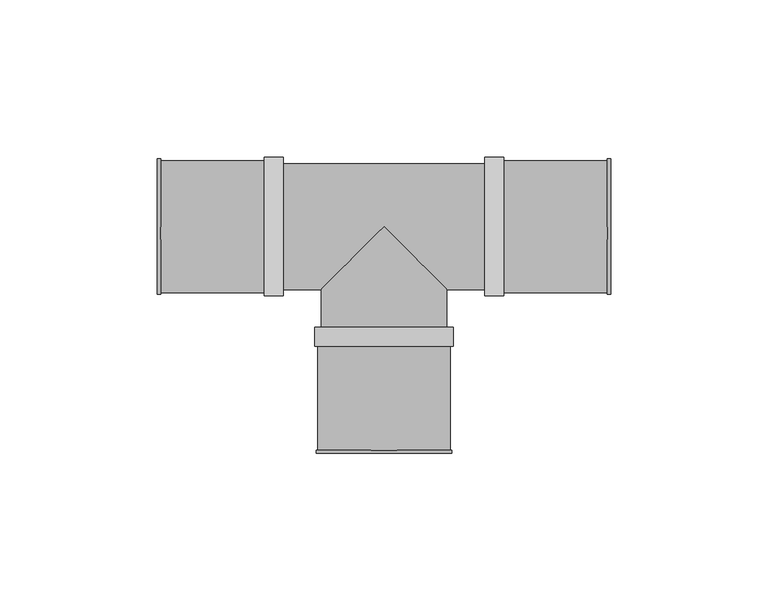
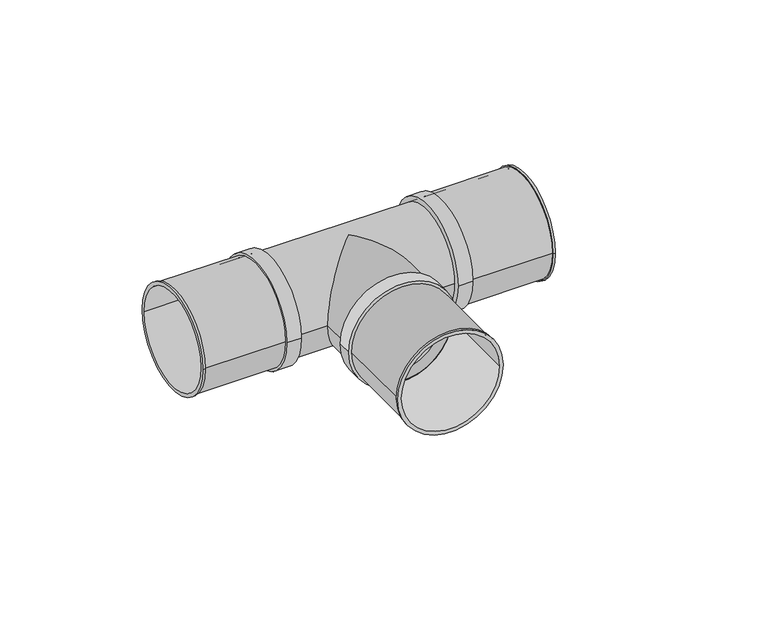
"""IFC4 building model written with IfcOpenShell, lengths in millimetres: pipe fitting geometry, SuperPipe_Tee_SPressPlus : SuperPipe_Tee_SPressPlus."""

from ifc_helpers import new_model, si_unit, point, frame, origin, origin_2d, place, context, project, spatial, polyline, circle_curve, ellipse_curve, trimmed, segment, composite_curve, outline, extrude, source, transform, mapped, element, save
from ifc_brep_helpers import plane_surface, cylinder_surface, revolved_surface, advanced_brep


def pipe_fitting_361ffb06(model_context):
    return source(origin(), model_context, "Body", "SolidModel", [
        advanced_brep(
        [(-72.0, -21.5, 0.0), (-72.0, 21.5, 0.0), (-72.0, -20.0, 0.0), (-72.0, 20.0, 0.0), (-38.0, -21.0, 0.0), (-38.0, 21.0, 0.0), (-38.0, -20.0, 0.0), (-38.0, 20.0, 0.0), (-71.0, -20.0, 0.0), (-71.0, 20.0, 0.0), (-71.0, 21.0, 0.0), (-71.0, -21.0, 0.0), (-71.0, -21.5, 0.0), (-71.0, 21.5, 0.0)],
        [
            (0, 1, circle_curve(frame((-72.0, 0.0, 0.0), z_axis=(-1.0, 0.0, 0.0), x_axis=(0.0, 1.0, 0.0)), 21.5)),
            (1, 0, circle_curve(frame((-72.0, 0.0, 0.0), z_axis=(-1.0, 0.0, 0.0), x_axis=(0.0, 1.0, 0.0)), 21.5)),
            (2, 3, circle_curve(frame((-72.0, 0.0, 0.0), z_axis=(1.0, 0.0, 0.0), x_axis=(0.0, 1.0, 0.0)), 20.0)),
            (3, 2, circle_curve(frame((-72.0, 0.0, 0.0), z_axis=(1.0, 0.0, 0.0), x_axis=(0.0, 1.0, 0.0)), 20.0)),
            (4, 5, circle_curve(frame((-38.0, 0.0, 0.0), z_axis=(1.0, 0.0, 0.0), x_axis=(0.0, 1.0, 0.0)), 21.0)),
            (5, 4, circle_curve(frame((-38.0, 0.0, 0.0), z_axis=(1.0, 0.0, 0.0), x_axis=(0.0, 1.0, 0.0)), 21.0)),
            (6, 7, circle_curve(frame((-38.0, 0.0, 0.0), z_axis=(-1.0, 0.0, 0.0), x_axis=(0.0, 1.0, 0.0)), 20.0)),
            (7, 6, circle_curve(frame((-38.0, 0.0, 0.0), z_axis=(-1.0, 0.0, 0.0), x_axis=(0.0, 1.0, 0.0)), 20.0)),
            (2, 8),
            (8, 6),
            (7, 9),
            (9, 3),
            (5, 10),
            (10, 11, circle_curve(frame((-71.0, 0.0, 0.0), z_axis=(1.0, 0.0, 0.0), x_axis=(0.0, 1.0, 0.0)), 21.0)),
            (11, 4),
            (11, 10, circle_curve(frame((-71.0, 0.0, 0.0), z_axis=(1.0, 0.0, 0.0), x_axis=(0.0, 1.0, 0.0)), 21.0)),
            (12, 13, circle_curve(frame((-71.0, 0.0, 0.0), z_axis=(1.0, 0.0, 0.0), x_axis=(0.0, 1.0, 0.0)), 21.5)),
            (13, 12, circle_curve(frame((-71.0, 0.0, 0.0), z_axis=(1.0, 0.0, 0.0), x_axis=(0.0, 1.0, 0.0)), 21.5)),
            (0, 12),
            (13, 1),
        ],
        [
            plane_surface(frame((-72.0, 0.0, 0.0), z_axis=(-1.0, 0.0, 0.0), x_axis=(0.0, 0.0, 1.0))),
            plane_surface(frame((-38.0, 0.0, 0.0), z_axis=(1.0, 0.0, 0.0), x_axis=(0.0, 0.0, 1.0))),
            revolved_surface(polyline([(-38.0, 20.0, 0.0), (-72.0, 20.0, 0.0)]), (-72.0, 0.0, 0.0), (1.0, 0.0, 0.0)),
            cylinder_surface(frame((-72.0, 0.0, 0.0), z_axis=(-1.0, 0.0, 0.0), x_axis=(0.0, 1.0, 0.0)), 21.0),
            plane_surface(frame((-71.0, 0.0, 0.0), z_axis=(1.0, 0.0, 0.0), x_axis=(0.0, 0.0, 1.0))),
            cylinder_surface(frame((-72.0, 0.0, 0.0), z_axis=(-1.0, 0.0, 0.0), x_axis=(0.0, 1.0, 0.0)), 21.5),
        ],
        [
            (0, [[1, 2], [3, 4]]),
            (1, [[5, 6], [7, 8]]),
            (2, [[-3, 9, 10, -8, 11, 12]]),
            (2, [[-4, -12, -11, -7, -10, -9]]),
            (3, [[-6, 13, 14, 15]]),
            (3, [[-5, -15, 16, -13]]),
            (4, [[17, 18], [-14, -16]]),
            (5, [[-1, 19, -18, 20]]),
            (5, [[-2, -20, -17, -19]]),
        ],
    ),
        advanced_brep(
        [(38.0, -21.0, 0.0), (38.0, 21.0, 0.0), (38.0, -20.0, 0.0), (38.0, 20.0, 0.0), (72.0, -21.5, 0.0), (72.0, 21.5, 0.0), (72.0, -20.0, 0.0), (72.0, 20.0, 0.0), (71.0, -21.0, 0.0), (71.0, 21.0, 0.0), (71.0, -20.0, 0.0), (71.0, 20.0, 0.0), (71.0, -21.5, 0.0), (71.0, 21.5, 0.0)],
        [
            (0, 1, circle_curve(frame((38.0, 0.0, 0.0), z_axis=(-1.0, 0.0, 0.0), x_axis=(0.0, 1.0, 0.0)), 21.0)),
            (1, 0, circle_curve(frame((38.0, 0.0, 0.0), z_axis=(-1.0, 0.0, 0.0), x_axis=(0.0, 1.0, 0.0)), 21.0)),
            (2, 3, circle_curve(frame((38.0, 0.0, 0.0), z_axis=(1.0, 0.0, 0.0), x_axis=(0.0, 1.0, 0.0)), 20.0)),
            (3, 2, circle_curve(frame((38.0, 0.0, 0.0), z_axis=(1.0, 0.0, 0.0), x_axis=(0.0, 1.0, 0.0)), 20.0)),
            (4, 5, circle_curve(frame((72.0, 0.0, 0.0), z_axis=(1.0, 0.0, 0.0), x_axis=(0.0, 1.0, 0.0)), 21.5)),
            (5, 4, circle_curve(frame((72.0, 0.0, 0.0), z_axis=(1.0, 0.0, 0.0), x_axis=(0.0, 1.0, 0.0)), 21.5)),
            (6, 7, circle_curve(frame((72.0, 0.0, 0.0), z_axis=(-1.0, 0.0, 0.0), x_axis=(0.0, 1.0, 0.0)), 20.0)),
            (7, 6, circle_curve(frame((72.0, 0.0, 0.0), z_axis=(-1.0, 0.0, 0.0), x_axis=(0.0, 1.0, 0.0)), 20.0)),
            (0, 8),
            (8, 9, circle_curve(frame((71.0, 0.0, 0.0), z_axis=(-1.0, 0.0, 0.0), x_axis=(0.0, 1.0, 0.0)), 21.0)),
            (9, 1),
            (9, 8, circle_curve(frame((71.0, 0.0, 0.0), z_axis=(-1.0, 0.0, 0.0), x_axis=(0.0, 1.0, 0.0)), 21.0)),
            (2, 10),
            (10, 6),
            (7, 11),
            (11, 3),
            (12, 13, circle_curve(frame((71.0, 0.0, 0.0), z_axis=(-1.0, 0.0, 0.0), x_axis=(0.0, 1.0, 0.0)), 21.5)),
            (13, 12, circle_curve(frame((71.0, 0.0, 0.0), z_axis=(-1.0, 0.0, 0.0), x_axis=(0.0, 1.0, 0.0)), 21.5)),
            (12, 4),
            (5, 13),
        ],
        [
            plane_surface(frame((38.0, 0.0, 0.0), z_axis=(-1.0, 0.0, 0.0), x_axis=(0.0, 0.0, 1.0))),
            plane_surface(frame((72.0, 0.0, 0.0), z_axis=(1.0, 0.0, 0.0), x_axis=(0.0, 0.0, 1.0))),
            cylinder_surface(frame((38.0, 0.0, 0.0), z_axis=(-1.0, 0.0, 0.0), x_axis=(0.0, 1.0, 0.0)), 21.0),
            revolved_surface(polyline([(72.0, 20.0, 0.0), (38.0, 20.0, 0.0)]), (38.0, 0.0, 0.0), (1.0, 0.0, 0.0)),
            plane_surface(frame((71.0, 0.0, 0.0), z_axis=(-1.0, 0.0, 0.0), x_axis=(0.0, 0.0, 1.0))),
            cylinder_surface(frame((71.0, 0.0, 0.0), z_axis=(-1.0, 0.0, 0.0), x_axis=(0.0, 1.0, 0.0)), 21.5),
        ],
        [
            (0, [[1, 2], [3, 4]]),
            (1, [[5, 6], [7, 8]]),
            (2, [[-1, 9, 10, 11]]),
            (2, [[-2, -11, 12, -9]]),
            (3, [[-3, 13, 14, -8, 15, 16]]),
            (3, [[-4, -16, -15, -7, -14, -13]]),
            (4, [[17, 18], [-10, -12]]),
            (5, [[-17, 19, -6, 20]]),
            (5, [[-18, -20, -5, -19]]),
        ],
    ),
        advanced_brep(
        [(-22.0, -38.0, 0.0), (22.0, -38.0, 0.0), (-20.0, -38.0, 0.0), (20.0, -38.0, 0.0), (-22.0, -32.0, 0.0), (22.0, -32.0, 0.0), (-20.0, -33.0, 0.0), (20.0, -33.0, 0.0)],
        [
            (0, 1, circle_curve(frame((0.0, -38.0, 0.0), z_axis=(0.0, -1.0, 0.0), x_axis=(0.0, 0.0, -1.0)), 22.0)),
            (1, 0, circle_curve(frame((0.0, -38.0, 0.0), z_axis=(0.0, -1.0, 0.0), x_axis=(0.0, 0.0, 1.0)), 22.0)),
            (2, 3, circle_curve(frame((0.0, -38.0, 0.0), z_axis=(0.0, 1.0, 0.0), x_axis=(1.0, 0.0, 0.0)), 20.0)),
            (3, 2, circle_curve(frame((0.0, -38.0, 0.0), z_axis=(0.0, 1.0, 0.0), x_axis=(1.0, 0.0, 0.0)), 20.0)),
            (4, 5, circle_curve(frame((0.0, -32.0, 0.0), z_axis=(0.0, 1.0, 0.0), x_axis=(0.0, 0.0, 1.0)), 22.0)),
            (5, 4, circle_curve(frame((0.0, -32.0, 0.0), z_axis=(0.0, 1.0, 0.0), x_axis=(0.0, 0.0, -1.0)), 22.0)),
            (0, 4),
            (5, 1),
            (6, 7, circle_curve(frame((0.0, -33.0, 0.0), z_axis=(0.0, -1.0, 0.0), x_axis=(1.0, 0.0, 0.0)), 20.0)),
            (7, 6, circle_curve(frame((0.0, -33.0, 0.0), z_axis=(0.0, -1.0, 0.0), x_axis=(1.0, 0.0, 0.0)), 20.0)),
            (7, 3),
            (2, 6),
        ],
        [
            plane_surface(frame((0.0, -38.0, 0.0), z_axis=(0.0, -1.0, 0.0), x_axis=(0.0, 0.0, -1.0))),
            plane_surface(frame((0.0, -32.0, 0.0), z_axis=(0.0, 1.0, 0.0), x_axis=(0.0, 0.0, -1.0))),
            cylinder_surface(frame((0.0, -32.0, 0.0), z_axis=(0.0, -1.0, 0.0), x_axis=(0.0, 0.0, -1.0)), 22.0),
            cylinder_surface(frame((0.0, -32.0, 0.0), z_axis=(0.0, -1.0, 0.0), x_axis=(0.0, 0.0, 1.0)), 22.0),
            plane_surface(frame((0.0, -33.0, 0.0), z_axis=(0.0, -1.0, 0.0), x_axis=(0.0, 0.0, 1.0))),
            revolved_surface(polyline([(20.0, -33.0, 0.0), (20.0, -38.0, 0.0)]), (0.0, -33.0, 0.0), (0.0, 1.0, 0.0)),
        ],
        [
            (0, [[1, 2], [3, 4]]),
            (1, [[5, 6]]),
            (2, [[-1, 7, -6, 8]]),
            (3, [[-2, -8, -5, -7]]),
            (4, [[9, 10]]),
            (5, [[-10, 11, -3, 12]]),
            (5, [[-9, -12, -4, -11]]),
        ],
    ),
        advanced_brep(
        [(38.0, -22.0, 0.0), (38.0, 22.0, 0.0), (38.0, 20.0, 0.0), (38.0, -20.0, 0.0), (32.0, -22.0, 0.0), (32.0, 22.0, 0.0), (33.0, -20.0, 0.0), (33.0, 20.0, 0.0)],
        [
            (0, 1, circle_curve(frame((38.0, 0.0, 0.0), z_axis=(1.0, 0.0, 0.0), x_axis=(0.0, 0.0, -1.0)), 22.0)),
            (1, 0, circle_curve(frame((38.0, 0.0, 0.0), z_axis=(1.0, 0.0, 0.0), x_axis=(0.0, 0.0, 1.0)), 22.0)),
            (2, 3, circle_curve(frame((38.0, 0.0, 0.0), z_axis=(-1.0, 0.0, 0.0), x_axis=(0.0, 1.0, 0.0)), 20.0)),
            (3, 2, circle_curve(frame((38.0, 0.0, 0.0), z_axis=(-1.0, 0.0, 0.0), x_axis=(0.0, 1.0, 0.0)), 20.0)),
            (4, 5, circle_curve(frame((32.0, 0.0, 0.0), z_axis=(-1.0, 0.0, 0.0), x_axis=(0.0, 0.0, 1.0)), 22.0)),
            (5, 4, circle_curve(frame((32.0, 0.0, 0.0), z_axis=(-1.0, 0.0, 0.0), x_axis=(0.0, 0.0, -1.0)), 22.0)),
            (0, 4),
            (5, 1),
            (6, 7, circle_curve(frame((33.0, 0.0, 0.0), z_axis=(1.0, 0.0, 0.0), x_axis=(0.0, 1.0, 0.0)), 20.0)),
            (7, 6, circle_curve(frame((33.0, 0.0, 0.0), z_axis=(1.0, 0.0, 0.0), x_axis=(0.0, 1.0, 0.0)), 20.0)),
            (6, 3),
            (2, 7),
        ],
        [
            plane_surface(frame((38.0, 0.0, 0.0), z_axis=(1.0, 0.0, 0.0), x_axis=(0.0, 0.0, -1.0))),
            plane_surface(frame((32.0, 0.0, 0.0), z_axis=(-1.0, 0.0, 0.0), x_axis=(0.0, 0.0, -1.0))),
            cylinder_surface(frame((32.0, 0.0, 0.0), z_axis=(1.0, 0.0, 0.0), x_axis=(0.0, 0.0, -1.0)), 22.0),
            cylinder_surface(frame((32.0, 0.0, 0.0), z_axis=(1.0, 0.0, 0.0), x_axis=(0.0, 0.0, 1.0)), 22.0),
            plane_surface(frame((33.0, 20.0, 0.0), z_axis=(1.0, 0.0, 0.0), x_axis=(0.0, 0.0, -1.0))),
            revolved_surface(polyline([(38.0, 20.0, 0.0), (33.0, 20.0, 0.0)]), (33.0, 0.0, 0.0), (1.0, 0.0, 0.0)),
        ],
        [
            (0, [[1, 2], [3, 4]]),
            (1, [[5, 6]]),
            (2, [[-1, 7, -6, 8]]),
            (3, [[-2, -8, -5, -7]]),
            (4, [[9, 10]]),
            (5, [[-9, 11, -3, 12]]),
            (5, [[-10, -12, -4, -11]]),
        ],
    ),
        advanced_brep(
        [(-32.0, -22.0, 0.0), (-32.0, 22.0, 0.0), (-38.0, -22.0, 0.0), (-38.0, 22.0, 0.0), (-38.0, -20.0, 0.0), (-38.0, 20.0, 0.0), (-33.0, -20.0, 0.0), (-33.0, 20.0, 0.0)],
        [
            (0, 1, circle_curve(frame((-32.0, 0.0, 0.0), z_axis=(1.0, 0.0, 0.0), x_axis=(0.0, 0.0, -1.0)), 22.0)),
            (1, 0, circle_curve(frame((-32.0, 0.0, 0.0), z_axis=(1.0, 0.0, 0.0), x_axis=(0.0, 0.0, 1.0)), 22.0)),
            (2, 3, circle_curve(frame((-38.0, 0.0, 0.0), z_axis=(-1.0, 0.0, 0.0), x_axis=(0.0, 0.0, 1.0)), 22.0)),
            (3, 2, circle_curve(frame((-38.0, 0.0, 0.0), z_axis=(-1.0, 0.0, 0.0), x_axis=(0.0, 0.0, -1.0)), 22.0)),
            (4, 5, circle_curve(frame((-38.0, 0.0, 0.0), z_axis=(1.0, 0.0, 0.0), x_axis=(0.0, 1.0, 0.0)), 20.0)),
            (5, 4, circle_curve(frame((-38.0, 0.0, 0.0), z_axis=(1.0, 0.0, 0.0), x_axis=(0.0, 1.0, 0.0)), 20.0)),
            (0, 2),
            (3, 1),
            (6, 7, circle_curve(frame((-33.0, 0.0, 0.0), z_axis=(-1.0, 0.0, 0.0), x_axis=(0.0, 1.0, 0.0)), 20.0)),
            (7, 6, circle_curve(frame((-33.0, 0.0, 0.0), z_axis=(-1.0, 0.0, 0.0), x_axis=(0.0, 1.0, 0.0)), 20.0)),
            (7, 5),
            (4, 6),
        ],
        [
            plane_surface(frame((-32.0, 0.0, 0.0), z_axis=(1.0, 0.0, 0.0), x_axis=(0.0, 0.0, -1.0))),
            plane_surface(frame((-38.0, 0.0, 0.0), z_axis=(-1.0, 0.0, 0.0), x_axis=(0.0, 0.0, -1.0))),
            cylinder_surface(frame((-38.0, 0.0, 0.0), z_axis=(1.0, 0.0, 0.0), x_axis=(0.0, 0.0, -1.0)), 22.0),
            cylinder_surface(frame((-38.0, 0.0, 0.0), z_axis=(1.0, 0.0, 0.0), x_axis=(0.0, 0.0, 1.0)), 22.0),
            plane_surface(frame((-33.0, 20.0, 0.0), z_axis=(-1.0, 0.0, 0.0), x_axis=(0.0, 0.0, 1.0))),
            revolved_surface(polyline([(-33.0, 20.0, 0.0), (-38.0, 20.0, 0.0)]), (-38.0, 0.0, 0.0), (1.0, 0.0, 0.0)),
        ],
        [
            (0, [[1, 2]]),
            (1, [[3, 4], [5, 6]]),
            (2, [[-1, 7, -4, 8]]),
            (3, [[-2, -8, -3, -7]]),
            (4, [[9, 10]]),
            (5, [[-10, 11, -5, 12]]),
            (5, [[-9, -12, -6, -11]]),
        ],
    ),
        advanced_brep(
        [(-20.0, -32.0, 0.0), (20.0, -32.0, 0.0), (20.0, -20.0, 0.0), (0.0, 0.0, 20.0), (-20.0, -20.0, 0.0), (0.0, 0.0, -20.0)],
        [
            (0, 1, circle_curve(frame((0.0, -32.0, 0.0), z_axis=(0.0, -1.0, 0.0), x_axis=(1.0, 0.0, 0.0)), 20.0)),
            (1, 0, circle_curve(frame((0.0, -32.0, 0.0), z_axis=(0.0, -1.0, 0.0), x_axis=(1.0, 0.0, 0.0)), 20.0)),
            (1, 2),
            (2, 3, ellipse_curve(frame((0.0, 0.0, 0.0), z_axis=(-0.7071067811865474, -0.7071067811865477, 0.0), x_axis=(-0.7071067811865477, 0.7071067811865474, 0.0)), 28.2842712, 20.0)),
            (3, 4, ellipse_curve(frame((0.0, 0.0, 0.0), z_axis=(0.7071067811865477, -0.7071067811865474, 0.0), x_axis=(0.7071067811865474, 0.7071067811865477, 0.0)), 28.2842712, 20.0)),
            (4, 0),
            (4, 5, ellipse_curve(frame((0.0, 0.0, 0.0), z_axis=(0.7071067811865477, -0.7071067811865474, 0.0), x_axis=(0.7071067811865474, 0.7071067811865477, 0.0)), 28.2842712, 20.0)),
            (5, 2, ellipse_curve(frame((0.0, 0.0, 0.0), z_axis=(-0.7071067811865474, -0.7071067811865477, 0.0), x_axis=(-0.7071067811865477, 0.7071067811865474, 0.0)), 28.2842712, 20.0)),
            (2, 4),
        ],
        [
            plane_surface(frame((0.0, -32.0, 0.0), z_axis=(0.0, -1.0, 0.0), x_axis=(0.0, 0.0, 1.0))),
            cylinder_surface(frame((0.0, 0.0, 0.0), z_axis=(0.0, 1.0, 0.0), x_axis=(1.0, 0.0, 0.0)), 20.0),
            revolved_surface(polyline([(-20.0, 20.0, 0.0), (20.0, 20.0, 0.0)]), (-128.8358145, 0.0, 0.0), (-1.0, 0.0, 0.0)),
        ],
        [
            (0, [[1, 2]]),
            (1, [[-2, 3, 4, 5, 6]]),
            (1, [[-1, -6, 7, 8, -3]]),
            (2, [[9, -5, -4]]),
            (2, [[-9, -8, -7]]),
        ],
    ),
        advanced_brep(
        [(-21.0, -38.0, 0.0), (21.0, -38.0, 0.0), (-20.0, -38.0, 0.0), (20.0, -38.0, 0.0), (-21.5, -72.0, 0.0), (21.5, -72.0, 0.0), (-20.0, -72.0, 0.0), (20.0, -72.0, 0.0), (-21.0, -71.0, 0.0), (21.0, -71.0, 0.0), (-21.5, -71.0, 0.0), (21.5, -71.0, 0.0)],
        [
            (0, 1, circle_curve(frame((0.0, -38.0, 0.0), z_axis=(0.0, 1.0, 0.0), x_axis=(1.0, 0.0, 0.0)), 21.0)),
            (1, 0, circle_curve(frame((0.0, -38.0, 0.0), z_axis=(0.0, 1.0, 0.0), x_axis=(1.0, 0.0, 0.0)), 21.0)),
            (2, 3, circle_curve(frame((0.0, -38.0, 0.0), z_axis=(0.0, -1.0, 0.0), x_axis=(1.0, 0.0, 0.0)), 20.0)),
            (3, 2, circle_curve(frame((0.0, -38.0, 0.0), z_axis=(0.0, -1.0, 0.0), x_axis=(1.0, 0.0, 0.0)), 20.0)),
            (4, 5, circle_curve(frame((0.0, -72.0, 0.0), z_axis=(0.0, -1.0, 0.0), x_axis=(1.0, 0.0, 0.0)), 21.5)),
            (5, 4, circle_curve(frame((0.0, -72.0, 0.0), z_axis=(0.0, -1.0, 0.0), x_axis=(1.0, 0.0, 0.0)), 21.5)),
            (6, 7, circle_curve(frame((0.0, -72.0, 0.0), z_axis=(0.0, 1.0, 0.0), x_axis=(1.0, 0.0, 0.0)), 20.0)),
            (7, 6, circle_curve(frame((0.0, -72.0, 0.0), z_axis=(0.0, 1.0, 0.0), x_axis=(1.0, 0.0, 0.0)), 20.0)),
            (2, 6),
            (7, 3),
            (0, 8),
            (8, 9, circle_curve(frame((0.0, -71.0, 0.0), z_axis=(0.0, 1.0, 0.0), x_axis=(1.0, 0.0, 0.0)), 21.0)),
            (9, 1),
            (9, 8, circle_curve(frame((0.0, -71.0, 0.0), z_axis=(0.0, 1.0, 0.0), x_axis=(1.0, 0.0, 0.0)), 21.0)),
            (10, 11, circle_curve(frame((0.0, -71.0, 0.0), z_axis=(0.0, 1.0, 0.0), x_axis=(1.0, 0.0, 0.0)), 21.5)),
            (11, 10, circle_curve(frame((0.0, -71.0, 0.0), z_axis=(0.0, 1.0, 0.0), x_axis=(1.0, 0.0, 0.0)), 21.5)),
            (10, 4),
            (5, 11),
        ],
        [
            plane_surface(frame((0.0, -38.0, 0.0), z_axis=(0.0, 1.0, 0.0), x_axis=(0.0, 0.0, 1.0))),
            plane_surface(frame((0.0, -72.0, 0.0), z_axis=(0.0, -1.0, 0.0), x_axis=(0.0, 0.0, 1.0))),
            revolved_surface(polyline([(20.0, -72.0, 0.0), (20.0, -38.0, 0.0)]), (0.0, -38.0, 0.0), (0.0, -1.0, 0.0)),
            cylinder_surface(frame((0.0, -38.0, 0.0), z_axis=(0.0, 1.0, 0.0), x_axis=(1.0, 0.0, 0.0)), 21.0),
            plane_surface(frame((0.0, -71.0, 0.0), z_axis=(0.0, 1.0, 0.0), x_axis=(0.0, 0.0, 1.0))),
            cylinder_surface(frame((0.0, -71.0, 0.0), z_axis=(0.0, 1.0, 0.0), x_axis=(1.0, 0.0, 0.0)), 21.5),
        ],
        [
            (0, [[1, 2], [3, 4]]),
            (1, [[5, 6], [7, 8]]),
            (2, [[-3, 9, -8, 10]]),
            (2, [[-4, -10, -7, -9]]),
            (3, [[-1, 11, 12, 13]]),
            (3, [[-2, -13, 14, -11]]),
            (4, [[15, 16], [-12, -14]]),
            (5, [[-15, 17, -6, 18]]),
            (5, [[-16, -18, -5, -17]]),
        ],
    ),
        extrude(outline(composite_curve([segment(trimmed(circle_curve(origin_2d(), 20.0), [point((-20.0, 0.0))], [point((20.0, 0.0))], False, "CARTESIAN"), True, "CONTINUOUS"), segment(trimmed(circle_curve(origin_2d(), 20.0), [point((20.0, 0.0))], [point((-20.0, 0.0))], False, "CARTESIAN"), True, "CONTINUOUS")], self_intersect=False)), frame((-32.0, 0.0, 0.0), z_axis=(1.0, 0.0, 0.0), x_axis=(0.0, 1.0, 0.0)), (0.0, 0.0, 1.0), 64.0),
    ])


if __name__ == "__main__":
    model = new_model("IFC4")
    model_context = context("Model", 3, world=origin())
    ifc_project = project(units=[si_unit("LENGTHUNIT", "METRE", prefix="MILLI")], contexts=[model_context])
    site = spatial("IfcSite", under=ifc_project)
    building = spatial("IfcBuilding", under=site)
    placement = place(None, origin())
    pipe_fitting_shape = pipe_fitting_361ffb06(model_context)
    element("IfcPipeFitting", 1, ObjectType="SuperPipe_Tee_SPressPlus : SuperPipe_Tee_SPressPlus", at=placement, inside=building, context=model_context, shape_type="MappedRepresentation", body=[
        mapped(pipe_fitting_shape, transform((0.0, 0.0, 0.0), x_axis=(1.0, 0.0, 0.0), y_axis=(0.0, 1.0, 0.0), z_axis=(0.0, 0.0, 1.0))),
    ])
    save(model, "model.ifc")
